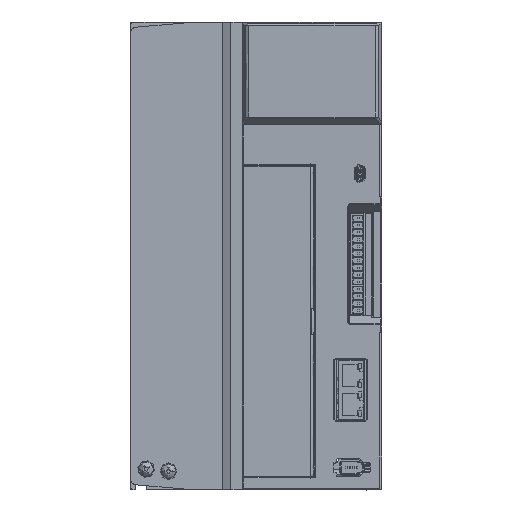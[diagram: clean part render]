
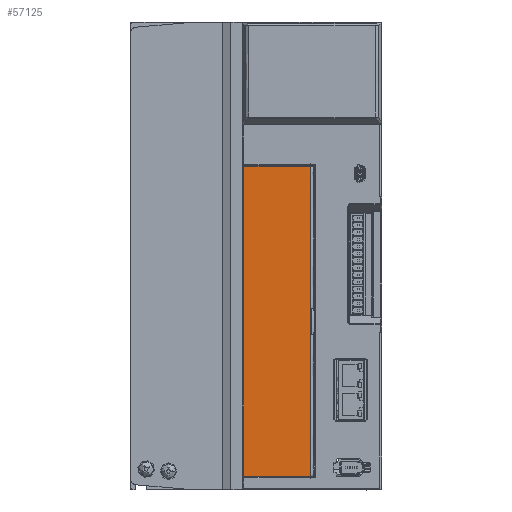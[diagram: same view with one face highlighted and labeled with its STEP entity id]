
A CAD part, front view. The second image highlights one B-rep face of the part: STEP entity #57125.
In plain terms, the highlighted planar face has unit normal (0, -1, 0).
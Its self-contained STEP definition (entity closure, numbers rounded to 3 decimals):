
#57125=ADVANCED_FACE('',(#69001),#385672,.T.);
#69001=FACE_OUTER_BOUND('',#81269,.T.);
#81269=EDGE_LOOP('',(#121671,#121672,#121673,#121674));
#121671=ORIENTED_EDGE('',*,*,#197570,.T.);
#121672=ORIENTED_EDGE('',*,*,#197571,.F.);
#121673=ORIENTED_EDGE('',*,*,#197572,.F.);
#121674=ORIENTED_EDGE('',*,*,#197573,.T.);
#197570=EDGE_CURVE('',#339605,#339603,#268083,.T.);
#197571=EDGE_CURVE('',#339602,#339603,#268084,.T.);
#197572=EDGE_CURVE('',#339604,#339602,#268085,.T.);
#197573=EDGE_CURVE('',#339604,#339605,#268086,.T.);
#268083=B_SPLINE_CURVE_WITH_KNOTS('',1,(#616173,#616174),.UNSPECIFIED.,
 .F.,.F.,(2,2),(0.,35.695),.UNSPECIFIED.);
#268084=B_SPLINE_CURVE_WITH_KNOTS('',1,(#616175,#616176),.UNSPECIFIED.,
 .F.,.F.,(2,2),(-166.2,0.),.UNSPECIFIED.);
#268085=B_SPLINE_CURVE_WITH_KNOTS('',1,(#616177,#616178),.UNSPECIFIED.,
 .F.,.F.,(2,2),(-35.695,0.),.UNSPECIFIED.);
#268086=B_SPLINE_CURVE_WITH_KNOTS('',1,(#616179,#616180),.UNSPECIFIED.,
 .F.,.F.,(2,2),(-166.2,0.),.UNSPECIFIED.);
#339602=VERTEX_POINT('',#616169);
#339603=VERTEX_POINT('',#616170);
#339604=VERTEX_POINT('',#616171);
#339605=VERTEX_POINT('',#616172);
#385672=PLANE('',#392743);
#392743=AXIS2_PLACEMENT_3D('',#616168,#399798,$);
#399798=DIRECTION('',(0.,-1.,0.));
#616168=CARTESIAN_POINT('',(-405.015,-524.196,-1.284));
#616169=CARTESIAN_POINT('',(-408.645,-524.196,181.596));
#616170=CARTESIAN_POINT('',(-408.645,-524.196,15.396));
#616171=CARTESIAN_POINT('',(-444.34,-524.196,181.596));
#616172=CARTESIAN_POINT('',(-444.34,-524.196,15.396));
#616173=CARTESIAN_POINT('',(-444.34,-524.196,15.396));
#616174=CARTESIAN_POINT('',(-408.645,-524.196,15.396));
#616175=CARTESIAN_POINT('',(-408.645,-524.196,181.596));
#616176=CARTESIAN_POINT('',(-408.645,-524.196,15.396));
#616177=CARTESIAN_POINT('',(-444.34,-524.196,181.596));
#616178=CARTESIAN_POINT('',(-408.645,-524.196,181.596));
#616179=CARTESIAN_POINT('',(-444.34,-524.196,181.596));
#616180=CARTESIAN_POINT('',(-444.34,-524.196,15.396));
